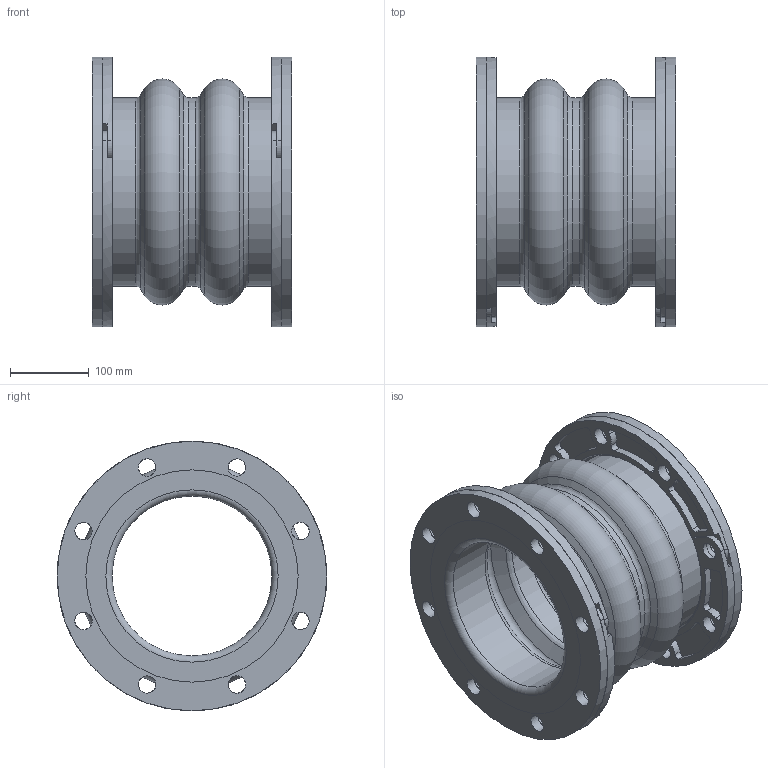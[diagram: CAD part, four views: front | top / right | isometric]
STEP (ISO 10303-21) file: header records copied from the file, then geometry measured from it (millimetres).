
FILE_DESCRIPTION(/* description */ (''),/* implementation_level */ '2;1');
FILE_NAME(/* name */ 'C:\001_Work\Designs\Mercer2014\702 8IDx10FF.stp',/* time_stamp */ '2016-04-10T14:42:35-04:00',/* author */ ('rramoutar'),/* organization */ ('Mason Industries Inc.'),/* preprocessor_version */ 'ST-DEVELOPER v15.6',/* originating_system */ 'Autodesk Inventor 2015',/* authorisation */ '');
FILE_SCHEMA (('CONFIG_CONTROL_DESIGN'));
Length unit declared in the file: inch
Products named in the file (1): 702 8IDx10FF
Bounding box: 254 x 342.9 x 342.9 mm (x, y, z)
Volume: 5863563.1 mm3; surface area: 931875.8 mm2
Topology: 5 solids, 5 shells, 280 faces, 730 edges, 480 vertices
Faces by surface type: cylinder 188, plane 62, torus 22, cone 8
Full cylindrical faces by diameter (mm): 22.225 x36, 203.2 x3, 239.712 x3, 342.9 x2
Entity records: 9064 total; most frequent: DIRECTION 1626, CARTESIAN_POINT 1593, ORIENTED_EDGE 1320, AXIS2_PLACEMENT_3D 701, EDGE_CURVE 660, VERTEX_POINT 476, EDGE_LOOP 440, CIRCLE 420
